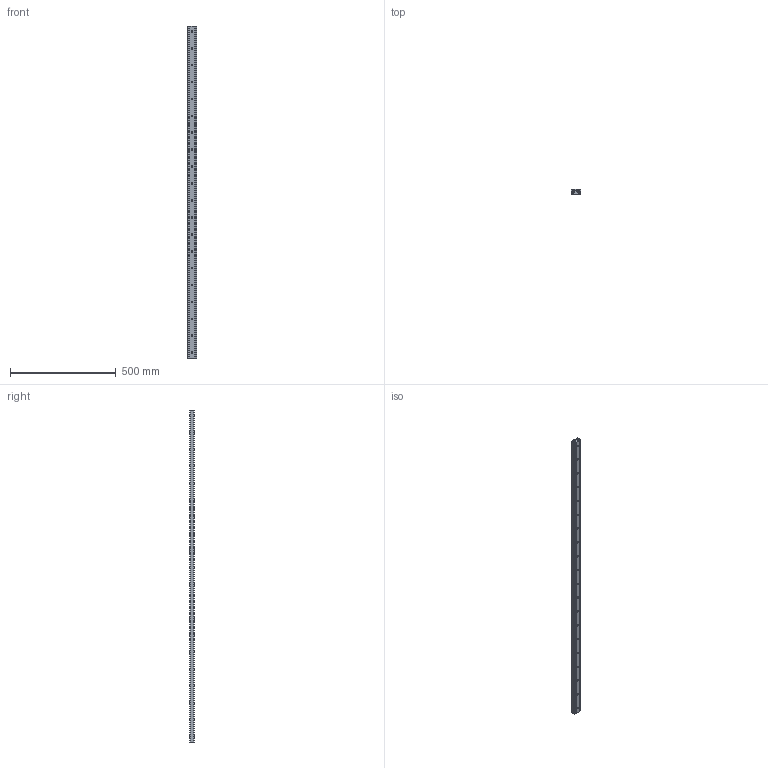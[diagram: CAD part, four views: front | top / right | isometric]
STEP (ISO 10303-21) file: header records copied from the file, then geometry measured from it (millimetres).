
FILE_DESCRIPTION(('STEP AP214'),'1');
FILE_NAME('rail_asn43-1570_00.stp','2017-06-06T10:15:19',('TraceParts'),('TraceParts S.A.'),'Spatial InterOp 3D',' ',' ');
FILE_SCHEMA(('automotive_design'));
Length unit declared in the file: millimetre
Products named in the file (2): rail_asn43-1570_00_1; rail_asn43-1570_00_2
Bounding box: 43 x 22.01 x 1570 mm (x, y, z)
Volume: 955571 mm3; surface area: 369408.1 mm2
Topology: 2 solids, 2 shells, 277 faces, 684 edges, 416 vertices
Faces by surface type: cone 120, cylinder 111, plane 46
Entity records: 8390 total; most frequent: DIRECTION 1584, CARTESIAN_POINT 1379, ORIENTED_EDGE 1368, EDGE_CURVE 684, AXIS2_PLACEMENT_3D 621, VERTEX_POINT 416, EDGE_LOOP 362, LINE 342
